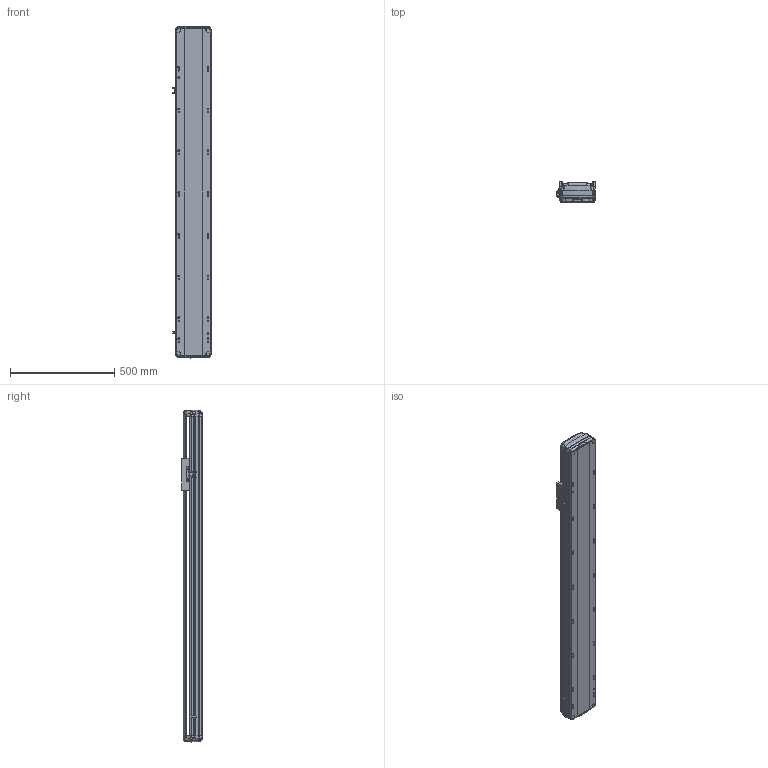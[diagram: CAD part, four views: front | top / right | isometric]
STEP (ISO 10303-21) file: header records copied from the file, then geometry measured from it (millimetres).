
FILE_DESCRIPTION (( 'STEP AP214' ), '1' );
FILE_NAME ('RTH17-XX-1150-B-M40B-C4.STEP', '2025-10-24T09:20:20', ( '' ), ( '' ), 'SwSTEP 2.0', 'SolidWorks 2018', '' );
FILE_SCHEMA (( 'AUTOMOTIVE_DESIGN' ));
Length unit declared in the file: millimetre
Products named in the file (7): N_RTH17-E-004丝杆螺母连接座^RTH17-XX-XX-B-M40B-C4（方程式）; N_RTH-L-012 感应片(外置)^RTH17-XX-XX-B-M40B-C4（方程式）; RTH17-XX-1150-B-M40B-C4; N_RTH17-GY-001P^RTH17-XX-XX-B-M40B-C4（方程式）; N_RTH17-M-011B底座^RTH17-XX-XX-B-M40B-C4（方程式）; N_OMRON EE-SX672 換覜ん^RTH17-XX-XX-B-M40B-C4ㄗ源最宒ㄘ; N_RTH17-M-007B上盖^RTH17-XX-XX-B-M40B-C4（方程式）
Assembly tree (9 placements, depth 2):
  RTH17-XX-1150-B-M40B-C4
    N_RTH17-M-011B底座^RTH17-XX-XX-B-M40B-C4（方程式）
    N_RTH17-M-007B上盖^RTH17-XX-XX-B-M40B-C4（方程式）
    N_OMRON EE-SX672 換覜ん^RTH17-XX-XX-B-M40B-C4ㄗ源最宒ㄘ  x3
    N_RTH-L-012 感应片(外置)^RTH17-XX-XX-B-M40B-C4（方程式）
    N_RTH17-E-004丝杆螺母连接座^RTH17-XX-XX-B-M40B-C4（方程式）
    N_RTH17-GY-001P^RTH17-XX-XX-B-M40B-C4（方程式）  x2
Bounding box: 183.5 x 97 x 1589.88 mm (x, y, z)
Volume: 11507804.1 mm3; surface area: 1558530.6 mm2
Topology: 7 solids, 11 shells, 1768 faces, 4988 edges, 3242 vertices
Faces by surface type: plane 815, cylinder 487, bspline 420, cone 28, torus 18
Entity records: 42582 total; most frequent: CARTESIAN_POINT 17551, ORIENTED_EDGE 5480, DIRECTION 4336, EDGE_CURVE 2744, VERTEX_POINT 1796, LINE 1472, VECTOR 1472, AXIS2_PLACEMENT_3D 1432
